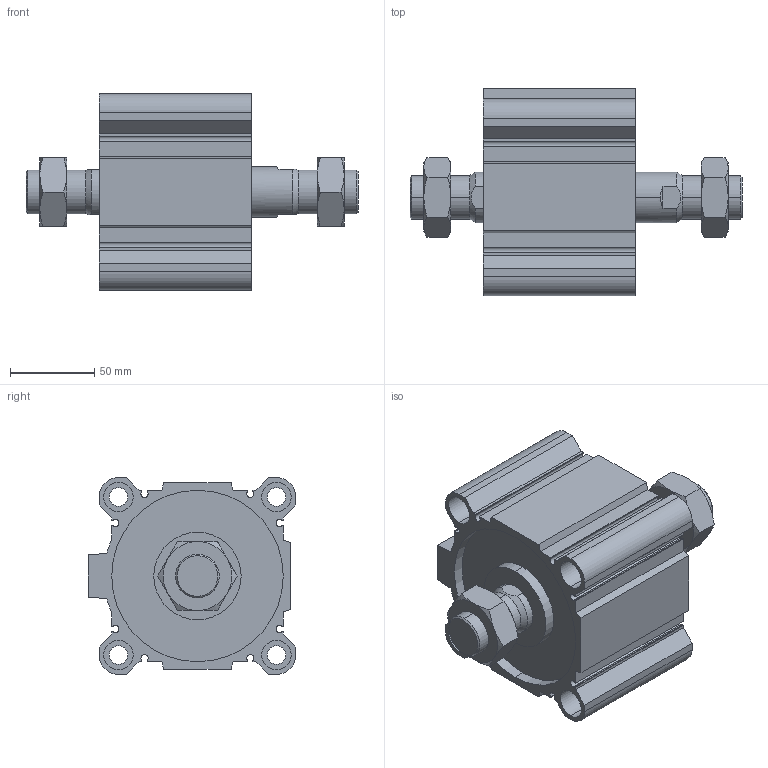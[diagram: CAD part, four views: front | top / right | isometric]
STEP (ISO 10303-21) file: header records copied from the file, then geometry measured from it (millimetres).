
FILE_DESCRIPTION (( 'STEP AP203' ), '1' );
FILE_NAME ('CCMB100-20M-P.STEP', '2020-08-10T11:58:02', ( '' ), ( '' ), 'SwSTEP 2.0', 'SolidWorks 2019', '' );
FILE_SCHEMA (( 'CONFIG_CONTROL_DESIGN' ));
Length unit declared in the file: millimetre
Products named in the file (1): CCMB100-20M-P
Bounding box: 197.5 x 123.5 x 117 mm (x, y, z)
Volume: 912740 mm3; surface area: 189509.6 mm2
Topology: 4 solids, 4 shells, 230 faces, 568 edges, 364 vertices
Faces by surface type: plane 106, cylinder 80, cone 44
Entity records: 7879 total; most frequent: CARTESIAN_POINT 2279, DIRECTION 1166, ORIENTED_EDGE 1136, EDGE_CURVE 568, AXIS2_PLACEMENT_3D 431, VERTEX_POINT 364, LINE 304, VECTOR 304
